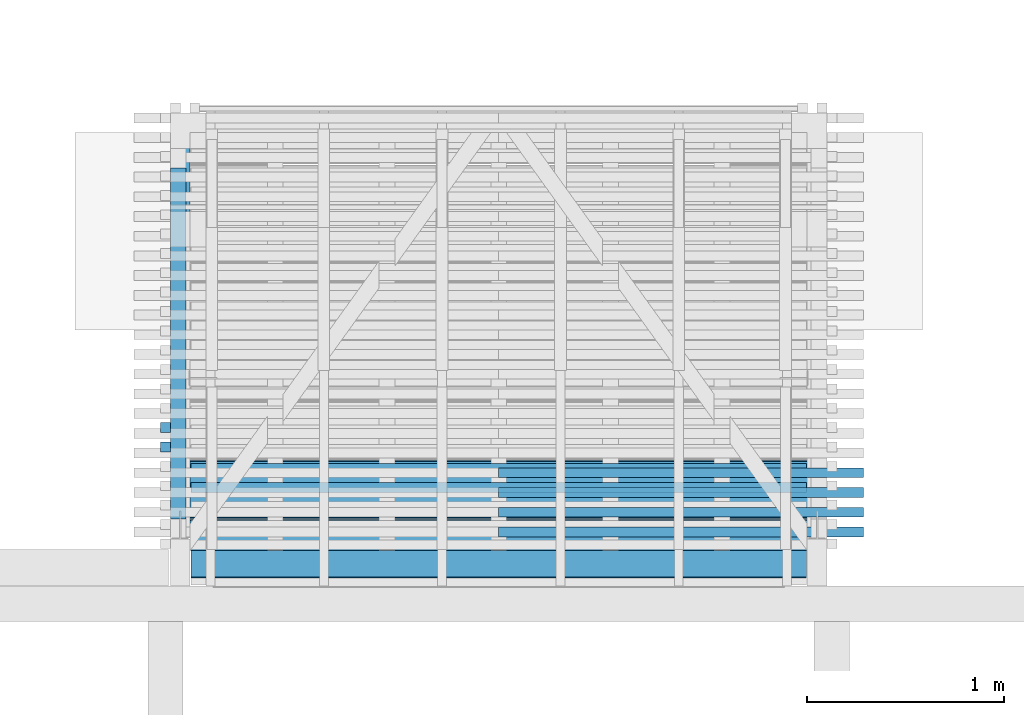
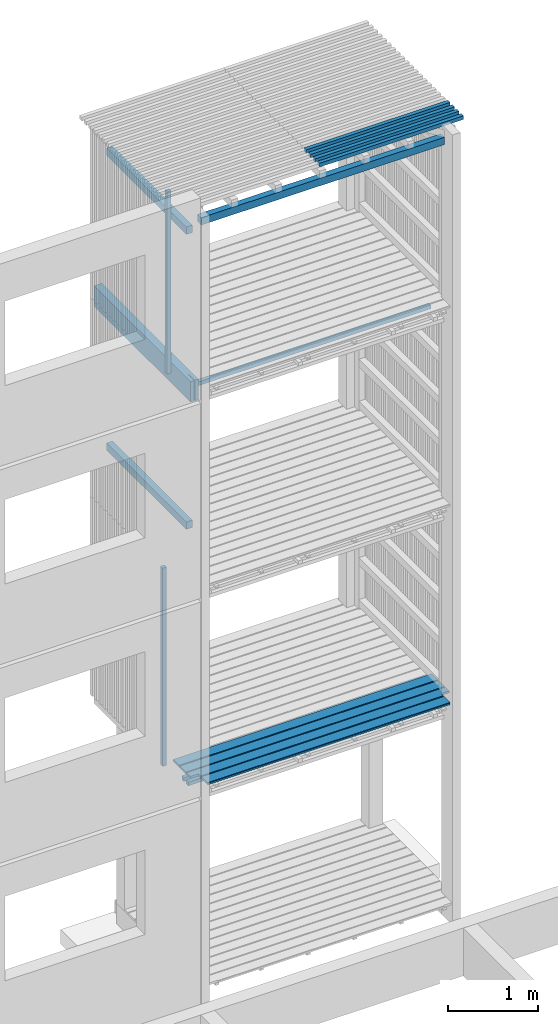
# One storey, part 112 of 182: 17 beams.
"""IFC2X3 building model written with IfcOpenShell, lengths in metres."""

from ifc_helpers import new_model, si_unit, frame, origin, place, context, project, spatial, faceted_brep, element, save


model = new_model("IFC2X3")

# Units and contexts
model_context = context("Model", 3, precision=1e-06, world=origin())
ifc_project = project(units=[si_unit("LENGTHUNIT", "METRE"), si_unit("PLANEANGLEUNIT", "RADIAN")], contexts=[model_context])

# Site, building, storey
site = spatial("IfcSite", under=ifc_project, CompositionType="ELEMENT")
building = spatial("IfcBuilding", under=site, CompositionType="ELEMENT")
storey = spatial("IfcBuildingStorey", under=building, Name="vs", CompositionType="ELEMENT", Elevation=-0.85)

# Beams
placement = place(None, origin())
beam_1_placement = place(placement, frame((52.999999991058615, 5.674168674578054, 2.575000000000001), z_axis=(1.0, 0.0, 0.0), x_axis=(0.0, 1e-15, 1.0)))
element("IfcBeam", 1, at=beam_1_placement, inside=storey, Name="Bardage", context=model_context, shape_type="Brep", body=[
    faceted_brep([(2.699961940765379, -0.024999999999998, 0.025000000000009), (2.699961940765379, -0.024999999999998, -0.025000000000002), (2.699961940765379, 0.025000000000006, -0.025000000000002), (2.699961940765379, 0.025000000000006, 0.025000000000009), (0.0, -0.025000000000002, 0.025000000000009), (2.699961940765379, -0.024999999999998, 0.025000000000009), (2.699961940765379, 0.025000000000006, 0.025000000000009), (0.0, 0.025000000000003, 0.025000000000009), (0.0, -0.025000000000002, 0.025000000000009), (0.0, 0.025000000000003, 0.025000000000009), (0.0, 0.025000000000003, -0.025000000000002), (0.0, -0.025000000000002, -0.025000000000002), (0.0, -0.025000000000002, 0.025000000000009), (0.0, -0.025000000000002, -0.025000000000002), (2.699961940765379, -0.024999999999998, -0.025000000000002), (2.699961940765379, -0.024999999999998, 0.025000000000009), (0.0, -0.025000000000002, -0.025000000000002), (0.0, 0.025000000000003, -0.025000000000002), (2.699961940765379, 0.025000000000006, -0.025000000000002), (2.699961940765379, -0.024999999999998, -0.025000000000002), (0.0, 0.025000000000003, -0.025000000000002), (0.0, 0.025000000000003, 0.025000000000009), (2.699961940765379, 0.025000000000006, 0.025000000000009), (2.699961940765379, 0.025000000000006, -0.025000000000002)], [[[0, 1, 2, 3]], [[4, 5, 6, 7]], [[8, 9, 10, 11]], [[12, 13, 14, 15]], [[16, 17, 18, 19]], [[20, 21, 22, 23]]]),
])
beam_2_placement = place(placement, frame((53.06499999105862, 5.210077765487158, 10.114999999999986), z_axis=(0.0, 0.0, 1.0), x_axis=(0.0, 1.0, 0.0)))
element("IfcBeam", 2, at=beam_2_placement, inside=storey, Name="Support bardage", context=model_context, shape_type="Brep", body=[
    faceted_brep([(1.779999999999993, 0.039999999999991, -0.050000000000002), (1.779999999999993, 0.039999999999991, 0.050000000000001), (1.779999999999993, -0.040000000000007, 0.050000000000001), (1.779999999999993, -0.040000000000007, -0.050000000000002), (1.779999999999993, -0.040000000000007, 0.050000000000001), (1.779999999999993, 0.039999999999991, 0.050000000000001), (-4e-15, 0.039999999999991, 0.050000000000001), (-4e-15, -0.040000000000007, 0.050000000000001), (-4e-15, 0.039999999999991, 0.050000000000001), (1.779999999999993, 0.039999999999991, 0.050000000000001), (1.779999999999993, 0.039999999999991, -0.050000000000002), (-4e-15, 0.039999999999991, -0.050000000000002), (1.779999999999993, -0.040000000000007, -0.050000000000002), (1.779999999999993, -0.040000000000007, 0.050000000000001), (-4e-15, -0.040000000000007, 0.050000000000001), (-4e-15, -0.040000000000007, -0.050000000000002), (-4e-15, 0.039999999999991, -0.050000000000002), (1.779999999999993, 0.039999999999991, -0.050000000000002), (1.779999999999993, -0.040000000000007, -0.050000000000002), (-4e-15, -0.040000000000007, -0.050000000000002), (-4e-15, 0.039999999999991, 0.050000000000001), (-4e-15, 0.039999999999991, -0.050000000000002), (-4e-15, -0.040000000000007, -0.050000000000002), (-4e-15, -0.040000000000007, 0.050000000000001)], [[[0, 1, 2, 3]], [[4, 5, 6, 7]], [[8, 9, 10, 11]], [[12, 13, 14, 15]], [[16, 17, 18, 19]], [[20, 21, 22, 23]]]),
])
beam_3_placement = place(placement, frame((52.999999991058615, 5.575986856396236, 7.974999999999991), z_axis=(1.0, 0.0, 0.0), x_axis=(0.0, 0.0, 1.0)))
element("IfcBeam", 3, at=beam_3_placement, inside=storey, Name="Bardage", context=model_context, shape_type="Brep", body=[
    faceted_brep([(0.0, -0.024999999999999, 0.025000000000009), (0.0, 0.024999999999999, 0.025000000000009), (0.0, 0.024999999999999, -0.025000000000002), (0.0, -0.024999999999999, -0.025000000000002), (2.479999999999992, 0.024999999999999, -0.025000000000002), (2.479999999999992, 0.024999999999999, 0.025000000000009), (2.479999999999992, -0.024999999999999, 0.025000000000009), (2.479999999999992, -0.024999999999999, -0.025000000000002), (0.0, 0.024999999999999, 0.025000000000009), (0.0, -0.024999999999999, 0.025000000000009), (2.479999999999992, -0.024999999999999, 0.025000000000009), (2.479999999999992, 0.024999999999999, 0.025000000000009), (0.0, 0.024999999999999, -0.025000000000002), (0.0, 0.024999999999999, 0.025000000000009), (2.479999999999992, 0.024999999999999, 0.025000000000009), (2.479999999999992, 0.024999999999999, -0.025000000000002), (0.0, -0.024999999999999, -0.025000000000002), (0.0, 0.024999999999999, -0.025000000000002), (2.479999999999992, 0.024999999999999, -0.025000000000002), (2.479999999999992, -0.024999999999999, -0.025000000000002), (2.479999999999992, -0.024999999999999, 0.025000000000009), (0.0, -0.024999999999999, 0.025000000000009), (0.0, -0.024999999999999, -0.025000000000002), (2.479999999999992, -0.024999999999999, -0.025000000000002)], [[[0, 1, 2, 3]], [[4, 5, 6, 7]], [[8, 9, 10, 11]], [[12, 13, 14, 15]], [[16, 17, 18, 19]], [[20, 21, 22, 23]]]),
])
beam_4_placement = place(placement, frame((53.074999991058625, 5.115077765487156, 7.979999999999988), z_axis=(0.0, 0.0, 1.0), x_axis=(0.0, 1.0, 0.0)))
element("IfcBeam", 4, at=beam_4_placement, inside=storey, Name="Sommier", context=model_context, shape_type="Brep", body=[
    faceted_brep([(2.154999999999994, 0.049999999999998, 0.140000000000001), (2.154999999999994, -0.049999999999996, 0.140000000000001), (2.154999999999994, -0.049999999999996, -0.14), (2.154999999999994, 0.049999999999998, -0.14), (0.771999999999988, -0.049999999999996, -0.14), (0.771999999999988, -0.049999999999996, 0.035000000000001), (0.847999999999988, -0.049999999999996, 0.035000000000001), (0.847999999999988, -0.049999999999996, -0.14), (2.154999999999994, -0.049999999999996, -0.14), (2.154999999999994, -0.049999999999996, 0.140000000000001), (0.0, -0.049999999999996, 0.140000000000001), (0.0, -0.049999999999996, -0.14), (0.771999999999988, -0.045000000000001, -0.14), (0.847999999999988, -0.045000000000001, -0.14), (0.847999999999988, -0.045000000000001, 0.035000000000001), (0.771999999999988, -0.045000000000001, 0.035000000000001), (0.771999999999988, -0.045000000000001, 0.035000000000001), (0.847999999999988, -0.045000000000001, 0.035000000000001), (0.847999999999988, -0.049999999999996, 0.035000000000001), (0.771999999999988, -0.049999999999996, 0.035000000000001), (0.847999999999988, -0.045000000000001, 0.035000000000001), (0.847999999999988, -0.045000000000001, -0.14), (0.847999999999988, -0.049999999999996, -0.14), (0.847999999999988, -0.049999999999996, 0.035000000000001), (0.771999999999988, -0.049999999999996, 0.035000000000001), (0.771999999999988, -0.049999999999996, -0.14), (0.771999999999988, -0.045000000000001, -0.14), (0.771999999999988, -0.045000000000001, 0.035000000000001), (2.154999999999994, 0.049999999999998, 0.140000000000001), (2.154999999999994, 0.049999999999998, -0.14), (0.0, 0.049999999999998, -0.14), (0.0, 0.049999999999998, 0.140000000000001), (0.0, -0.00399999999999, 0.140000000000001), (0.0, -0.049999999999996, 0.140000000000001), (2.154999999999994, -0.049999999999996, 0.140000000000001), (2.154999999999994, 0.049999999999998, 0.140000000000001), (0.0, 0.049999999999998, 0.140000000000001), (0.0, 0.004000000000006, 0.140000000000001), (0.137, 0.004000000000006, 0.140000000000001), (0.137, -0.00399999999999, 0.140000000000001), (0.0, 0.004000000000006, -0.14), (0.0, 0.004000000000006, 0.140000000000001), (0.0, 0.049999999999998, 0.140000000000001), (0.0, 0.049999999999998, -0.14), (0.0, -0.049999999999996, 0.140000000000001), (0.0, -0.00399999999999, 0.140000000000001), (0.0, -0.00399999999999, -0.14), (0.0, -0.049999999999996, -0.14), (0.0, 0.049999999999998, -0.14), (2.154999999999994, 0.049999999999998, -0.14), (2.154999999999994, -0.049999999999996, -0.14), (0.847999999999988, -0.049999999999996, -0.14), (0.847999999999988, -0.045000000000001, -0.14), (0.771999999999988, -0.045000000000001, -0.14), (0.771999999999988, -0.049999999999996, -0.14), (0.0, -0.049999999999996, -0.14), (0.0, -0.00399999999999, -0.14), (0.137, -0.00399999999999, -0.14), (0.137, 0.004000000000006, -0.14), (0.0, 0.004000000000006, -0.14), (0.137, 0.004000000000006, -0.14), (0.137, -0.00399999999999, -0.14), (0.137, -0.00399999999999, 0.140000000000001), (0.137, 0.004000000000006, 0.140000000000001), (0.0, -0.00399999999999, 0.140000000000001), (0.137, -0.00399999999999, 0.140000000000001), (0.137, -0.00399999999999, -0.14), (0.0, -0.00399999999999, -0.14), (0.137, 0.004000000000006, 0.140000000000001), (0.0, 0.004000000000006, 0.140000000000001), (0.0, 0.004000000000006, -0.14), (0.137, 0.004000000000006, -0.14)], [[[0, 1, 2, 3]], [[4, 5, 6, 7, 8, 9, 10, 11]], [[12, 13, 14, 15]], [[16, 17, 18, 19]], [[20, 21, 22, 23]], [[24, 25, 26, 27]], [[28, 29, 30, 31]], [[32, 33, 34, 35, 36, 37, 38, 39]], [[40, 41, 42, 43]], [[44, 45, 46, 47]], [[48, 49, 50, 51, 52, 53, 54, 55, 56, 57, 58, 59]], [[60, 61, 62, 63]], [[64, 65, 66, 67]], [[68, 69, 70, 71]]]),
])
beam_5_placement = place(placement, frame((53.06499999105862, 5.210077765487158, 6.101249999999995), z_axis=(0.0, 0.0, 1.0), x_axis=(0.0, 1.0, 0.0)))
element("IfcBeam", 5, at=beam_5_placement, inside=storey, Name="Support bardage", context=model_context, shape_type="Brep", body=[
    faceted_brep([(1.779999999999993, 0.039999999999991, -0.05), (1.779999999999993, 0.039999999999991, 0.050000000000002), (1.779999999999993, -0.040000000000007, 0.050000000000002), (1.779999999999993, -0.040000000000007, -0.05), (1.779999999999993, -0.040000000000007, 0.050000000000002), (1.779999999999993, 0.039999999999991, 0.050000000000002), (-4e-15, 0.039999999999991, 0.050000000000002), (-4e-15, -0.040000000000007, 0.050000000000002), (-4e-15, 0.039999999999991, 0.050000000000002), (1.779999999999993, 0.039999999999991, 0.050000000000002), (1.779999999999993, 0.039999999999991, -0.05), (-4e-15, 0.039999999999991, -0.05), (1.779999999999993, -0.040000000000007, -0.05), (1.779999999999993, -0.040000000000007, 0.050000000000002), (-4e-15, -0.040000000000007, 0.050000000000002), (-4e-15, -0.040000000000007, -0.05), (-4e-15, 0.039999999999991, -0.05), (1.779999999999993, 0.039999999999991, -0.05), (1.779999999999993, -0.040000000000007, -0.05), (-4e-15, -0.040000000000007, -0.05), (-4e-15, 0.039999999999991, 0.050000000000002), (-4e-15, 0.039999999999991, -0.05), (-4e-15, -0.040000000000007, -0.05), (-4e-15, -0.040000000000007, 0.050000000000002)], [[[0, 1, 2, 3]], [[4, 5, 6, 7]], [[8, 9, 10, 11]], [[12, 13, 14, 15]], [[16, 17, 18, 19]], [[20, 21, 22, 23]]]),
])
beam_6_placement = place(placement, frame((56.539999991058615, 5.445077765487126, 10.47999999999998), z_axis=(0.0, 0.0, 1.0), x_axis=(-1.0, 0.0, 0.0)))
element("IfcBeam", 6, at=beam_6_placement, inside=storey, Name="Bardage", context=model_context, shape_type="Brep", body=[
    faceted_brep([(-3e-15, 0.025000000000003, 0.025000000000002), (-3e-15, -0.024999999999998, 0.025000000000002), (1.849999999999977, -0.025000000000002, 0.025000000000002), (1.849999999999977, 0.025000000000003, 0.025000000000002), (1.849999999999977, -0.025000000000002, 0.025000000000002), (-3e-15, -0.024999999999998, 0.025000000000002), (-3e-15, -0.024999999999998, -0.024999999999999), (1.849999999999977, -0.025000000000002, -0.024999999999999), (-3e-15, -0.024999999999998, 0.025000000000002), (-3e-15, 0.025000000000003, 0.025000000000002), (-3e-15, 0.025000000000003, -0.024999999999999), (-3e-15, -0.024999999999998, -0.024999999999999), (-3e-15, 0.025000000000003, -0.024999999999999), (-3e-15, 0.025000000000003, 0.025000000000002), (1.849999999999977, 0.025000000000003, 0.025000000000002), (1.849999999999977, 0.025000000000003, -0.024999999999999), (1.849999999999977, -0.025000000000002, -0.024999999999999), (-3e-15, -0.024999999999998, -0.024999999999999), (-3e-15, 0.025000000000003, -0.024999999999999), (1.849999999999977, 0.025000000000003, -0.024999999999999), (1.849999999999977, -0.025000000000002, 0.025000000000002), (1.849999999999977, -0.025000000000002, -0.024999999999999), (1.849999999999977, 0.025000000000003, -0.024999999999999), (1.849999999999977, 0.025000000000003, 0.025000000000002)], [[[0, 1, 2, 3]], [[4, 5, 6, 7]], [[8, 9, 10, 11]], [[12, 13, 14, 15]], [[16, 17, 18, 19]], [[20, 21, 22, 23]]]),
])
beam_7_placement = place(placement, frame((56.539999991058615, 5.245077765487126, 10.47999999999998), z_axis=(0.0, 0.0, 1.0), x_axis=(-1.0, 0.0, 0.0)))
element("IfcBeam", 7, at=beam_7_placement, inside=storey, Name="Bardage", context=model_context, shape_type="Brep", body=[
    faceted_brep([(-3e-15, 0.025000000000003, 0.025000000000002), (-3e-15, -0.024999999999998, 0.025000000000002), (1.849999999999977, -0.024999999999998, 0.025000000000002), (1.849999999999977, 0.025000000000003, 0.025000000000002), (1.849999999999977, -0.024999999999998, 0.025000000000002), (-3e-15, -0.024999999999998, 0.025000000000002), (-3e-15, -0.024999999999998, -0.024999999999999), (1.849999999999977, -0.024999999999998, -0.024999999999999), (-3e-15, -0.024999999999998, 0.025000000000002), (-3e-15, 0.025000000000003, 0.025000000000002), (-3e-15, 0.025000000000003, -0.024999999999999), (-3e-15, -0.024999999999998, -0.024999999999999), (-3e-15, 0.025000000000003, -0.024999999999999), (-3e-15, 0.025000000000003, 0.025000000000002), (1.849999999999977, 0.025000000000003, 0.025000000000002), (1.849999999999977, 0.025000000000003, -0.024999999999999), (1.849999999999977, -0.024999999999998, -0.024999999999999), (-3e-15, -0.024999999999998, -0.024999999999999), (-3e-15, 0.025000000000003, -0.024999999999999), (1.849999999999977, 0.025000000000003, -0.024999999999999), (1.849999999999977, -0.024999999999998, 0.025000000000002), (1.849999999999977, -0.024999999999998, -0.024999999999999), (1.849999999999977, 0.025000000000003, -0.024999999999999), (1.849999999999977, 0.025000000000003, 0.025000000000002)], [[[0, 1, 2, 3]], [[4, 5, 6, 7]], [[8, 9, 10, 11]], [[12, 13, 14, 15]], [[16, 17, 18, 19]], [[20, 21, 22, 23]]]),
])
beam_8_placement = place(placement, frame((56.539999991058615, 5.145077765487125, 10.47999999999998), z_axis=(0.0, 0.0, 1.0), x_axis=(-1.0, 0.0, 0.0)))
element("IfcBeam", 8, at=beam_8_placement, inside=storey, Name="Bardage", context=model_context, shape_type="Brep", body=[
    faceted_brep([(-3e-15, 0.024999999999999, 0.025000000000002), (-3e-15, -0.024999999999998, 0.025000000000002), (1.849999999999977, -0.025000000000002, 0.025000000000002), (1.849999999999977, 0.024999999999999, 0.025000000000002), (1.849999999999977, -0.025000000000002, 0.025000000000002), (-3e-15, -0.024999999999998, 0.025000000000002), (-3e-15, -0.024999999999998, -0.024999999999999), (1.849999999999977, -0.025000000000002, -0.024999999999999), (-3e-15, -0.024999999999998, 0.025000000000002), (-3e-15, 0.024999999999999, 0.025000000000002), (-3e-15, 0.024999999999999, -0.024999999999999), (-3e-15, -0.024999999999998, -0.024999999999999), (-3e-15, 0.024999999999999, -0.024999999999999), (-3e-15, 0.024999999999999, 0.025000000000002), (1.849999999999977, 0.024999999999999, 0.025000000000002), (1.849999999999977, 0.024999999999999, -0.024999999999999), (1.849999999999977, -0.025000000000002, -0.024999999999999), (-3e-15, -0.024999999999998, -0.024999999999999), (-3e-15, 0.024999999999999, -0.024999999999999), (1.849999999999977, 0.024999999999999, -0.024999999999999), (1.849999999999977, -0.025000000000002, 0.025000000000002), (1.849999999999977, -0.025000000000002, -0.024999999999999), (1.849999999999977, 0.024999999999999, -0.024999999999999), (1.849999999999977, 0.024999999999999, 0.025000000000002)], [[[0, 1, 2, 3]], [[4, 5, 6, 7]], [[8, 9, 10, 11]], [[12, 13, 14, 15]], [[16, 17, 18, 19]], [[20, 21, 22, 23]]]),
])
beam_9_placement = place(placement, frame((56.25499999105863, 5.09007776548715, 10.30499999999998), z_axis=(0.0, 0.0, 1.0), x_axis=(-1.0, 0.0, 0.0)))
element("IfcBeam", 9, at=beam_9_placement, inside=storey, Name="Support bardage", context=model_context, shape_type="Brep", body=[
    faceted_brep([(2e-15, 0.04, -0.050000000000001), (2e-15, -0.039999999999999, -0.050000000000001), (2e-15, -0.039999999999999, 0.050000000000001), (2e-15, 0.04, 0.050000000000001), (3.130000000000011, -0.039999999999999, 0.050000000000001), (3.130000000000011, -0.039999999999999, -0.050000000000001), (3.130000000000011, 0.04, -0.050000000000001), (3.130000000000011, 0.04, 0.050000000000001), (2e-15, -0.039999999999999, 0.050000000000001), (2e-15, -0.039999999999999, -0.050000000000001), (3.130000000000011, -0.039999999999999, -0.050000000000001), (3.130000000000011, -0.039999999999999, 0.050000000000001), (3.130000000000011, -0.039999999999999, -0.050000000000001), (2e-15, -0.039999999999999, -0.050000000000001), (2e-15, 0.04, -0.050000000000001), (3.130000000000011, 0.04, -0.050000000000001), (3.130000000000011, 0.04, -0.050000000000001), (2e-15, 0.04, -0.050000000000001), (2e-15, 0.04, 0.050000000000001), (3.130000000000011, 0.04, 0.050000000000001), (3.130000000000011, 0.04, 0.050000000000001), (2e-15, 0.04, 0.050000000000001), (2e-15, -0.039999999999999, 0.050000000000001), (3.130000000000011, -0.039999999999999, 0.050000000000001)], [[[0, 1, 2, 3]], [[4, 5, 6, 7]], [[8, 9, 10, 11]], [[12, 13, 14, 15]], [[16, 17, 18, 19]], [[20, 21, 22, 23]]]),
])
beam_10_placement = place(placement, frame((56.24999999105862, 4.984577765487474, 2.733499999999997), z_axis=(0.0, 0.0, 1.0), x_axis=(-1.0, 0.0, 0.0)))
element("IfcBeam", 10, at=beam_10_placement, inside=storey, Name="Caillebotis", context=model_context, shape_type="Brep", body=[
    faceted_brep([(-3e-15, -0.072500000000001, 0.008500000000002), (-3e-15, -0.067500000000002, 0.0135), (-3e-15, 0.067499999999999, 0.0135), (-3e-15, 0.072499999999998, 0.0085), (-3e-15, 0.072499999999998, -0.0135), (-3e-15, -0.072500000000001, -0.0135), (-3e-15, 0.072499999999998, -0.0135), (-3e-15, 0.072499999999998, 0.0085), (3.120000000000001, 0.072499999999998, 0.0085), (3.120000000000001, 0.072499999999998, -0.0135), (-3e-15, -0.072500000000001, -0.0135), (-3e-15, 0.072499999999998, -0.0135), (3.120000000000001, 0.072499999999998, -0.0135), (3.120000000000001, -0.072500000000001, -0.0135), (-3e-15, -0.072500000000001, 0.008500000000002), (-3e-15, -0.072500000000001, -0.0135), (3.120000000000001, -0.072500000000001, -0.0135), (3.120000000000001, -0.072500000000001, 0.008500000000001), (-3e-15, -0.067500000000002, 0.0135), (-3e-15, -0.072500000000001, 0.008500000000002), (3.120000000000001, -0.072500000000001, 0.008500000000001), (3.120000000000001, -0.067500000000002, 0.0135), (-3e-15, 0.067499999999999, 0.0135), (-3e-15, -0.067500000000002, 0.0135), (3.120000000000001, -0.067500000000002, 0.0135), (3.120000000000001, 0.067499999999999, 0.0135), (-3e-15, 0.072499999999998, 0.0085), (-3e-15, 0.067499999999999, 0.0135), (3.120000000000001, 0.067499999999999, 0.0135), (3.120000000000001, 0.072499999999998, 0.0085), (3.120000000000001, -0.072500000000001, -0.0135), (3.120000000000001, 0.072499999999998, -0.0135), (3.120000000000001, 0.072499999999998, 0.0085), (3.120000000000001, 0.067499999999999, 0.0135), (3.120000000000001, -0.067500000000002, 0.0135), (3.120000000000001, -0.072500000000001, 0.008500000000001)], [[[0, 1, 2, 3, 4, 5]], [[6, 7, 8, 9]], [[10, 11, 12, 13]], [[14, 15, 16, 17]], [[18, 19, 20, 21]], [[22, 23, 24, 25]], [[26, 27, 28, 29]], [[30, 31, 32, 33, 34, 35]]]),
])
beam_11_placement = place(placement, frame((56.35499999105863, 5.134577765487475, 2.733499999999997), z_axis=(0.0, 0.0, 1.0), x_axis=(-1.0, 0.0, 0.0)))
element("IfcBeam", 11, at=beam_11_placement, inside=storey, Name="Caillebotis", context=model_context, shape_type="Brep", body=[
    faceted_brep([(0.0, -0.072499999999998, -0.0135), (0.0, -0.072499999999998, 0.008500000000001), (0.0, -0.067499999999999, 0.0135), (0.0, 0.019500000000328, 0.0135), (0.0, 0.019500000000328, -0.0135), (3.329999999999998, -0.067499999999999, 0.0135), (3.329999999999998, 0.019500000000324, 0.0135), (3.225000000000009, 0.019500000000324, 0.0135), (3.225000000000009, 0.067500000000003, 0.0135), (0.105000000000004, 0.067500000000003, 0.0135), (0.105000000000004, 0.019500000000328, 0.0135), (0.0, 0.019500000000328, 0.0135), (0.0, -0.067499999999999, 0.0135), (0.105000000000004, 0.019500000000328, 0.0135), (0.105000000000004, 0.067500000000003, 0.0135), (0.105000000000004, 0.072500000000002, 0.0085), (0.105000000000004, 0.072500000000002, -0.0135), (0.105000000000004, 0.019500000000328, -0.0135), (0.105000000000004, 0.072500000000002, 0.0085), (0.105000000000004, 0.067500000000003, 0.0135), (3.225000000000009, 0.067500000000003, 0.0135), (3.225000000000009, 0.072500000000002, 0.0085), (0.105000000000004, 0.072500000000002, -0.0135), (0.105000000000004, 0.072500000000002, 0.0085), (3.225000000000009, 0.072500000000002, 0.0085), (3.225000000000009, 0.072500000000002, -0.0135), (3.225000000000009, 0.072500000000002, -0.0135), (3.225000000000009, 0.072500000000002, 0.0085), (3.225000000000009, 0.067500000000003, 0.0135), (3.225000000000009, 0.019500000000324, 0.0135), (3.225000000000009, 0.019500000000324, -0.0135), (3.225000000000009, 0.019500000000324, -0.0135), (3.225000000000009, 0.019500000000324, 0.0135), (3.329999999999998, 0.019500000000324, 0.0135), (3.329999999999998, 0.019500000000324, -0.0135), (3.329999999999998, -0.072499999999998, 0.008500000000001), (3.329999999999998, -0.072499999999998, -0.0135), (3.329999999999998, 0.019500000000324, -0.0135), (3.329999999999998, 0.019500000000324, 0.0135), (3.329999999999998, -0.067499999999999, 0.0135), (3.329999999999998, -0.072499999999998, 0.008500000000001), (3.329999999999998, -0.067499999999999, 0.0135), (0.0, -0.067499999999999, 0.0135), (0.0, -0.072499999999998, 0.008500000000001), (3.329999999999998, -0.072499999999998, -0.0135), (3.329999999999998, -0.072499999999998, 0.008500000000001), (0.0, -0.072499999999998, 0.008500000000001), (0.0, -0.072499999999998, -0.0135), (0.105000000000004, 0.019500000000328, -0.0135), (0.105000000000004, 0.072500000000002, -0.0135), (3.225000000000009, 0.072500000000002, -0.0135), (3.225000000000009, 0.019500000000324, -0.0135), (3.329999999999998, 0.019500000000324, -0.0135), (3.329999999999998, -0.072499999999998, -0.0135), (0.0, -0.072499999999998, -0.0135), (0.0, 0.019500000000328, -0.0135), (0.0, 0.019500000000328, 0.0135), (0.105000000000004, 0.019500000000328, 0.0135), (0.105000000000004, 0.019500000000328, -0.0135), (0.0, 0.019500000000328, -0.0135)], [[[0, 1, 2, 3, 4]], [[5, 6, 7, 8, 9, 10, 11, 12]], [[13, 14, 15, 16, 17]], [[18, 19, 20, 21]], [[22, 23, 24, 25]], [[26, 27, 28, 29, 30]], [[31, 32, 33, 34]], [[35, 36, 37, 38, 39]], [[40, 41, 42, 43]], [[44, 45, 46, 47]], [[48, 49, 50, 51, 52, 53, 54, 55]], [[56, 57, 58, 59]]]),
])
beam_12_placement = place(placement, frame((56.24999999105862, 5.37070276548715, 2.467999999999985), z_axis=(0.0, 0.0, 1.0), x_axis=(-1.0, -1e-15, 0.0)))
element("IfcBeam", 12, at=beam_12_placement, inside=storey, Name="Bardage", context=model_context, shape_type="Brep", body=[
    faceted_brep([(3.120000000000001, 0.024999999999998, -0.025), (3.120000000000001, -0.025000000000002, -0.025), (-3e-15, -0.024999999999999, -0.025), (-3e-15, 0.025000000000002, -0.025), (-3e-15, -0.024999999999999, -0.025), (3.120000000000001, -0.025000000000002, -0.025), (3.120000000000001, -0.025000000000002, 0.025), (-3e-15, -0.024999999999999, 0.025), (3.120000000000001, -0.025000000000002, -0.025), (3.120000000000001, 0.024999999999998, -0.025), (3.120000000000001, 0.024999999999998, 0.025), (3.120000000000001, -0.025000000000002, 0.025), (3.120000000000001, 0.024999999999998, 0.025), (3.120000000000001, 0.024999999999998, -0.025), (-3e-15, 0.025000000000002, -0.025), (-3e-15, 0.025000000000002, 0.025), (-3e-15, -0.024999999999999, 0.025), (3.120000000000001, -0.025000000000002, 0.025), (3.120000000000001, 0.024999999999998, 0.025), (-3e-15, 0.025000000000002, 0.025), (-3e-15, -0.024999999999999, -0.025), (-3e-15, -0.024999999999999, 0.025), (-3e-15, 0.025000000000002, 0.025), (-3e-15, 0.025000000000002, -0.025)], [[[0, 1, 2, 3]], [[4, 5, 6, 7]], [[8, 9, 10, 11]], [[12, 13, 14, 15]], [[16, 17, 18, 19]], [[20, 21, 22, 23]]]),
])
beam_13_placement = place(placement, frame((56.24999999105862, 5.467577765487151, 2.467999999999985), z_axis=(0.0, 0.0, 1.0), x_axis=(-1.0, -1e-15, 0.0)))
element("IfcBeam", 13, at=beam_13_placement, inside=storey, Name="Bardage", context=model_context, shape_type="Brep", body=[
    faceted_brep([(3.120000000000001, 0.025000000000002, -0.025), (3.120000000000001, -0.025000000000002, -0.025), (-3e-15, -0.024999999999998, -0.025), (-3e-15, 0.025000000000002, -0.025), (-3e-15, -0.024999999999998, -0.025), (3.120000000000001, -0.025000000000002, -0.025), (3.120000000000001, -0.025000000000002, 0.025), (-3e-15, -0.024999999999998, 0.025), (3.120000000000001, -0.025000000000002, -0.025), (3.120000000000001, 0.025000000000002, -0.025), (3.120000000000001, 0.025000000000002, 0.025), (3.120000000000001, -0.025000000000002, 0.025), (3.120000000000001, 0.025000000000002, 0.025), (3.120000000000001, 0.025000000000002, -0.025), (-3e-15, 0.025000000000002, -0.025), (-3e-15, 0.025000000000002, 0.025), (-3e-15, -0.024999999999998, 0.025), (3.120000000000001, -0.025000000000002, 0.025), (3.120000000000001, 0.025000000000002, 0.025), (-3e-15, 0.025000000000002, 0.025), (-3e-15, -0.024999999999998, -0.025), (-3e-15, -0.024999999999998, 0.025), (-3e-15, 0.025000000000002, 0.025), (-3e-15, 0.025000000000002, -0.025)], [[[0, 1, 2, 3]], [[4, 5, 6, 7]], [[8, 9, 10, 11]], [[12, 13, 14, 15]], [[16, 17, 18, 19]], [[20, 21, 22, 23]]]),
])
beam_14_placement = place(placement, frame((56.35499999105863, 5.434577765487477, 2.733499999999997), z_axis=(0.0, 0.0, 1.0), x_axis=(-1.0, -1e-15, 0.0)))
element("IfcBeam", 14, at=beam_14_placement, inside=storey, Name="Caillebotis", context=model_context, shape_type="Brep", body=[
    faceted_brep([(3.329999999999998, -0.072500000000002, -0.0135), (3.329999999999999, 0.072500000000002, -0.0135), (3.329999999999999, 0.072500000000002, 0.0085), (3.329999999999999, 0.067499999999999, 0.0135), (3.329999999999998, -0.067499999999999, 0.0135), (3.329999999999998, -0.072500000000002, 0.008500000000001), (0.0, -0.072499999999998, 0.008500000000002), (0.0, -0.067499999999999, 0.0135), (0.0, 0.067500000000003, 0.0135), (0.0, 0.072500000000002, 0.0085), (0.0, 0.072500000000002, -0.0135), (0.0, -0.072499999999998, -0.0135), (3.329999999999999, 0.072500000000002, 0.0085), (3.329999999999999, 0.072500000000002, -0.0135), (0.0, 0.072500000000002, -0.0135), (0.0, 0.072500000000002, 0.0085), (3.329999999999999, 0.067499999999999, 0.0135), (3.329999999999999, 0.072500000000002, 0.0085), (0.0, 0.072500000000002, 0.0085), (0.0, 0.067500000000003, 0.0135), (3.329999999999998, -0.067499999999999, 0.0135), (3.329999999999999, 0.067499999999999, 0.0135), (0.0, 0.067500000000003, 0.0135), (0.0, -0.067499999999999, 0.0135), (3.329999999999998, -0.072500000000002, 0.008500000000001), (3.329999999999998, -0.067499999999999, 0.0135), (0.0, -0.067499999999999, 0.0135), (0.0, -0.072499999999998, 0.008500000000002), (3.329999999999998, -0.072500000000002, -0.0135), (3.329999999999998, -0.072500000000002, 0.008500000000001), (0.0, -0.072499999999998, 0.008500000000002), (0.0, -0.072499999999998, -0.0135), (0.0, 0.072500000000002, -0.0135), (3.329999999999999, 0.072500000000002, -0.0135), (3.329999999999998, -0.072500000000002, -0.0135), (0.0, -0.072499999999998, -0.0135)], [[[0, 1, 2, 3, 4, 5]], [[6, 7, 8, 9, 10, 11]], [[12, 13, 14, 15]], [[16, 17, 18, 19]], [[20, 21, 22, 23]], [[24, 25, 26, 27]], [[28, 29, 30, 31]], [[32, 33, 34, 35]]]),
])
beam_15_placement = place(placement, frame((56.24999999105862, 5.370702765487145, 7.867999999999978), z_axis=(0.0, 0.0, 1.0), x_axis=(-1.0, 0.0, 0.0)))
element("IfcBeam", 15, at=beam_15_placement, inside=storey, Name="Bardage", context=model_context, shape_type="Brep", body=[
    faceted_brep([(3.120000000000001, 0.024999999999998, -0.025000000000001), (3.120000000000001, -0.025000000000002, -0.025000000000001), (-3e-15, -0.025000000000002, -0.025000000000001), (-3e-15, 0.024999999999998, -0.025000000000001), (-3e-15, -0.025000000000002, -0.025000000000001), (3.120000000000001, -0.025000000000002, -0.025000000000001), (3.120000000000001, -0.025000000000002, 0.024999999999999), (-3e-15, -0.025000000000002, 0.024999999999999), (3.120000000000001, -0.025000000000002, -0.025000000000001), (3.120000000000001, 0.024999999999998, -0.025000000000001), (3.120000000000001, 0.024999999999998, 0.024999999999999), (3.120000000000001, -0.025000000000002, 0.024999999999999), (3.120000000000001, 0.024999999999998, 0.024999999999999), (3.120000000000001, 0.024999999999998, -0.025000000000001), (-3e-15, 0.024999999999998, -0.025000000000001), (-3e-15, 0.024999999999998, 0.024999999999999), (-3e-15, -0.025000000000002, 0.024999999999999), (3.120000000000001, -0.025000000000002, 0.024999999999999), (3.120000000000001, 0.024999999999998, 0.024999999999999), (-3e-15, 0.024999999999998, 0.024999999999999), (-3e-15, -0.025000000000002, -0.025000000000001), (-3e-15, -0.025000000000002, 0.024999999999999), (-3e-15, 0.024999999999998, 0.024999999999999), (-3e-15, 0.024999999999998, -0.025000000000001)], [[[0, 1, 2, 3]], [[4, 5, 6, 7]], [[8, 9, 10, 11]], [[12, 13, 14, 15]], [[16, 17, 18, 19]], [[20, 21, 22, 23]]]),
])
beam_16_placement = place(placement, frame((56.539999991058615, 5.345077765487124, 10.47999999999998), z_axis=(0.0, 0.0, 1.0), x_axis=(-1.0, 2e-15, 0.0)))
element("IfcBeam", 16, at=beam_16_placement, inside=storey, Name="Bardage", context=model_context, shape_type="Brep", body=[
    faceted_brep([(-3e-15, 0.024999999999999, 0.025000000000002), (-3e-15, -0.025000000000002, 0.025000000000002), (1.849999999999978, -0.024999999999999, 0.025000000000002), (1.849999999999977, 0.025000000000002, 0.025000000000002), (1.849999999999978, -0.024999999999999, 0.025000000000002), (-3e-15, -0.025000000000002, 0.025000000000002), (-3e-15, -0.025000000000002, -0.024999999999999), (1.849999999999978, -0.024999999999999, -0.024999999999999), (-3e-15, -0.025000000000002, 0.025000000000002), (-3e-15, 0.024999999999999, 0.025000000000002), (-3e-15, 0.024999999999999, -0.024999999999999), (-3e-15, -0.025000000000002, -0.024999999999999), (-3e-15, 0.024999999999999, -0.024999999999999), (-3e-15, 0.024999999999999, 0.025000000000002), (1.849999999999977, 0.025000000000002, 0.025000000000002), (1.849999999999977, 0.025000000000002, -0.024999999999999), (1.849999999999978, -0.024999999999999, -0.024999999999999), (-3e-15, -0.025000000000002, -0.024999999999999), (-3e-15, 0.024999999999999, -0.024999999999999), (1.849999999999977, 0.025000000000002, -0.024999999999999), (1.849999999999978, -0.024999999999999, 0.025000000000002), (1.849999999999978, -0.024999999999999, -0.024999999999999), (1.849999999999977, 0.025000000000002, -0.024999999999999), (1.849999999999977, 0.025000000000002, 0.025000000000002)], [[[0, 1, 2, 3]], [[4, 5, 6, 7]], [[8, 9, 10, 11]], [[12, 13, 14, 15]], [[16, 17, 18, 19]], [[20, 21, 22, 23]]]),
])
beam_17_placement = place(placement, frame((56.35499999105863, 5.284577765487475, 2.733499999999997), z_axis=(0.0, 0.0, 1.0), x_axis=(-1.0, -2e-15, 0.0)))
element("IfcBeam", 17, at=beam_17_placement, inside=storey, Name="Caillebotis", context=model_context, shape_type="Brep", body=[
    faceted_brep([(3.329999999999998, -0.072500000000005, -0.0135), (3.329999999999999, 0.072499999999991, -0.0135), (3.329999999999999, 0.072499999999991, 0.0085), (3.329999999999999, 0.067499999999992, 0.0135), (3.329999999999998, -0.067500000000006, 0.0135), (3.329999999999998, -0.072500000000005, 0.008500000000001), (0.0, -0.072500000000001, 0.008500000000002), (0.0, -0.067499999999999, 0.0135), (0.0, 0.067499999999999, 0.0135), (0.0, 0.072500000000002, 0.0085), (0.0, 0.072500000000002, -0.0135), (0.0, -0.072500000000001, -0.0135), (3.329999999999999, 0.072499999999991, 0.0085), (3.329999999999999, 0.072499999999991, -0.0135), (0.0, 0.072500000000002, -0.0135), (0.0, 0.072500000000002, 0.0085), (3.329999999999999, 0.067499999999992, 0.0135), (3.329999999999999, 0.072499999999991, 0.0085), (0.0, 0.072500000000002, 0.0085), (0.0, 0.067499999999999, 0.0135), (3.329999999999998, -0.067500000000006, 0.0135), (3.329999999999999, 0.067499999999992, 0.0135), (0.0, 0.067499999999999, 0.0135), (0.0, -0.067499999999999, 0.0135), (3.329999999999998, -0.072500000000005, 0.008500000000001), (3.329999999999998, -0.067500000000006, 0.0135), (0.0, -0.067499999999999, 0.0135), (0.0, -0.072500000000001, 0.008500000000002), (3.329999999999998, -0.072500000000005, -0.0135), (3.329999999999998, -0.072500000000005, 0.008500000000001), (0.0, -0.072500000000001, 0.008500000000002), (0.0, -0.072500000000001, -0.0135), (0.0, 0.072500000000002, -0.0135), (3.329999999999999, 0.072499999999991, -0.0135), (3.329999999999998, -0.072500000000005, -0.0135), (0.0, -0.072500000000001, -0.0135)], [[[0, 1, 2, 3, 4, 5]], [[6, 7, 8, 9, 10, 11]], [[12, 13, 14, 15]], [[16, 17, 18, 19]], [[20, 21, 22, 23]], [[24, 25, 26, 27]], [[28, 29, 30, 31]], [[32, 33, 34, 35]]]),
])

save(model, "model.ifc")
